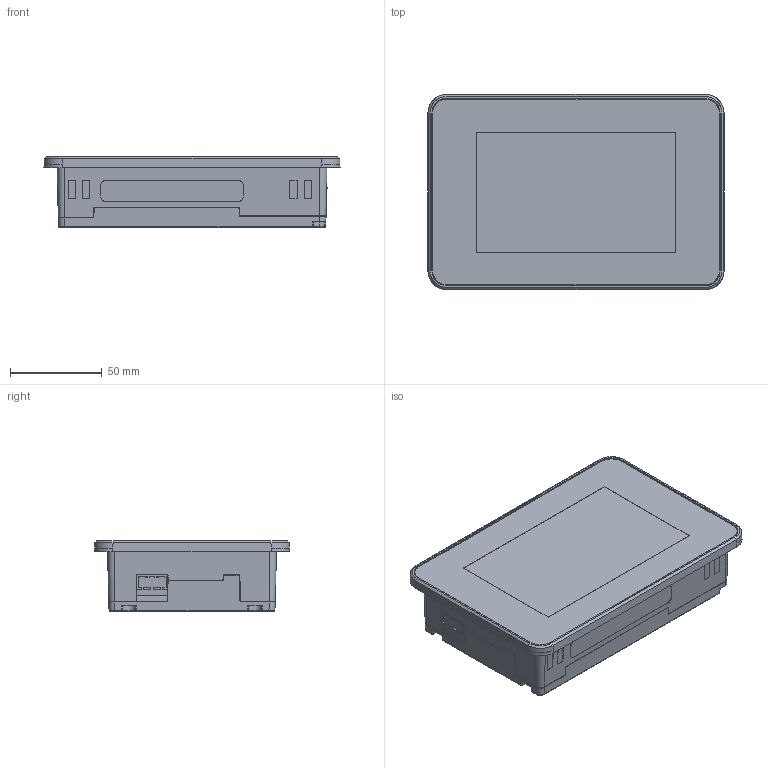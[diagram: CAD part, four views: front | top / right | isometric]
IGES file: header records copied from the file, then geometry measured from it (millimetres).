
Start section: SolidWorks IGES file using analytic representation for surfaces
Global section: file name: Z:\Products\UniStream\Unistream 5\澭欈鱋2D_3D files\5 Inch\CAD FILES\US5 - Lite Panel\3D\UniStream 5 - Lite Panel1.IGS,15; native system: HSolidWorks 2017; preprocessor: SolidWorks 2017; author: laorb; date: 190122.121339; units: millimetre
Bounding box: 161.31 x 106.31 x 38.5 mm (x, y, z)
Surface area: 55326.7 mm2 (no closed solid volume)
Topology: 0 solids, 0 shells, 1104 faces, 8696 edges, 8693 vertices
Faces by surface type: bspline 826, revolution 278
